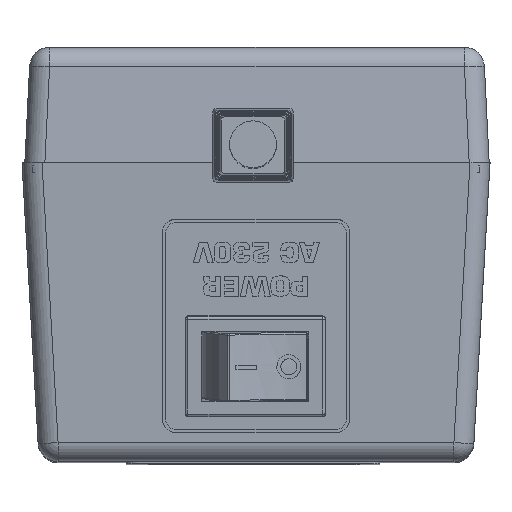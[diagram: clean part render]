
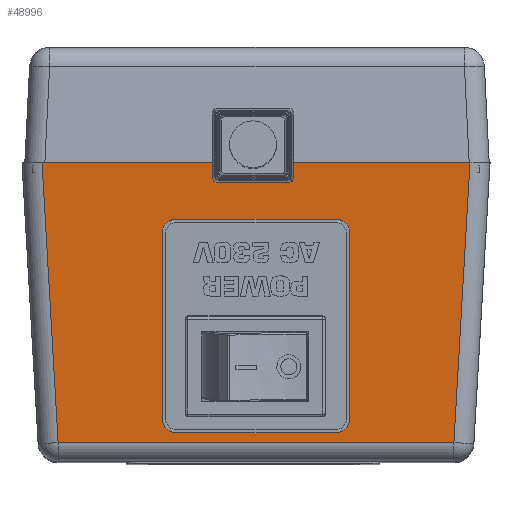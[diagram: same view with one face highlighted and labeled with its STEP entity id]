
A CAD part, top view. The second image highlights one B-rep face of the part: STEP entity #48996.
In plain terms, the highlighted planar face has unit normal (0, -0.056, 0.999).
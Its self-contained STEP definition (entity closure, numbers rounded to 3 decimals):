
#548=CIRCLE('',#51335,2.);
#549=CIRCLE('',#51336,2.);
#550=CIRCLE('',#51337,2.);
#551=CIRCLE('',#51338,2.);
#1466=FACE_BOUND('',#7106,.T.);
#4446=FACE_OUTER_BOUND('',#7105,.T.);
#7105=EDGE_LOOP('',(#39323,#39324,#39325,#39326,#39327,#39328,#39329,#39330,
#39331,#39332));
#7106=EDGE_LOOP('',(#39333,#39334,#39335,#39336,#39337,#39338,#39339,#39340));
#11342=LINE('',#81361,#16525);
#11343=LINE('',#81363,#16526);
#11355=LINE('',#81395,#16538);
#11356=LINE('',#81397,#16539);
#11366=LINE('',#81420,#16549);
#11369=LINE('',#81426,#16552);
#11392=LINE('',#81474,#16575);
#11693=LINE('',#82225,#16876);
#11694=LINE('',#82227,#16877);
#11695=LINE('',#82228,#16878);
#11696=LINE('',#82233,#16879);
#11697=LINE('',#82237,#16880);
#11698=LINE('',#82241,#16881);
#11699=LINE('',#82244,#16882);
#16525=VECTOR('',#58451,10.);
#16526=VECTOR('',#58452,10.);
#16538=VECTOR('',#58474,10.);
#16539=VECTOR('',#58475,10.);
#16549=VECTOR('',#58495,10.);
#16552=VECTOR('',#58500,10.);
#16575=VECTOR('',#58537,10.);
#16876=VECTOR('',#59224,10.);
#16877=VECTOR('',#59225,10.);
#16878=VECTOR('',#59226,10.);
#16879=VECTOR('',#59229,10.);
#16880=VECTOR('',#59232,10.);
#16881=VECTOR('',#59235,10.);
#16882=VECTOR('',#59238,10.);
#21278=VERTEX_POINT('',#81358);
#21279=VERTEX_POINT('',#81360);
#21280=VERTEX_POINT('',#81362);
#21294=VERTEX_POINT('',#81392);
#21295=VERTEX_POINT('',#81394);
#21296=VERTEX_POINT('',#81396);
#21304=VERTEX_POINT('',#81419);
#21306=VERTEX_POINT('',#81425);
#21581=VERTEX_POINT('',#82224);
#21582=VERTEX_POINT('',#82226);
#21583=VERTEX_POINT('',#82229);
#21584=VERTEX_POINT('',#82230);
#21585=VERTEX_POINT('',#82232);
#21586=VERTEX_POINT('',#82234);
#21587=VERTEX_POINT('',#82236);
#21588=VERTEX_POINT('',#82238);
#21589=VERTEX_POINT('',#82240);
#21590=VERTEX_POINT('',#82242);
#27285=EDGE_CURVE('',#21279,#21278,#11342,.T.);
#27286=EDGE_CURVE('',#21280,#21279,#11343,.T.);
#27302=EDGE_CURVE('',#21295,#21294,#11355,.T.);
#27303=EDGE_CURVE('',#21296,#21295,#11356,.T.);
#27315=EDGE_CURVE('',#21294,#21304,#11366,.T.);
#27318=EDGE_CURVE('',#21304,#21306,#11369,.T.);
#27343=EDGE_CURVE('',#21306,#21280,#11392,.T.);
#27724=EDGE_CURVE('',#21581,#21278,#11693,.T.);
#27725=EDGE_CURVE('',#21582,#21581,#11694,.T.);
#27726=EDGE_CURVE('',#21296,#21582,#11695,.T.);
#27727=EDGE_CURVE('',#21583,#21584,#548,.T.);
#27728=EDGE_CURVE('',#21584,#21585,#11696,.T.);
#27729=EDGE_CURVE('',#21585,#21586,#549,.T.);
#27730=EDGE_CURVE('',#21586,#21587,#11697,.T.);
#27731=EDGE_CURVE('',#21587,#21588,#550,.T.);
#27732=EDGE_CURVE('',#21588,#21589,#11698,.T.);
#27733=EDGE_CURVE('',#21589,#21590,#551,.T.);
#27734=EDGE_CURVE('',#21590,#21583,#11699,.T.);
#39323=ORIENTED_EDGE('',*,*,#27315,.T.);
#39324=ORIENTED_EDGE('',*,*,#27318,.T.);
#39325=ORIENTED_EDGE('',*,*,#27343,.T.);
#39326=ORIENTED_EDGE('',*,*,#27286,.T.);
#39327=ORIENTED_EDGE('',*,*,#27285,.T.);
#39328=ORIENTED_EDGE('',*,*,#27724,.F.);
#39329=ORIENTED_EDGE('',*,*,#27725,.F.);
#39330=ORIENTED_EDGE('',*,*,#27726,.F.);
#39331=ORIENTED_EDGE('',*,*,#27303,.T.);
#39332=ORIENTED_EDGE('',*,*,#27302,.T.);
#39333=ORIENTED_EDGE('',*,*,#27727,.T.);
#39334=ORIENTED_EDGE('',*,*,#27728,.T.);
#39335=ORIENTED_EDGE('',*,*,#27729,.T.);
#39336=ORIENTED_EDGE('',*,*,#27730,.T.);
#39337=ORIENTED_EDGE('',*,*,#27731,.T.);
#39338=ORIENTED_EDGE('',*,*,#27732,.T.);
#39339=ORIENTED_EDGE('',*,*,#27733,.T.);
#39340=ORIENTED_EDGE('',*,*,#27734,.T.);
#44252=PLANE('',#51334);
#48996=ADVANCED_FACE('',(#4446,#1466),#44252,.T.);
#51334=AXIS2_PLACEMENT_3D('',#82223,#59222,#59223);
#51335=AXIS2_PLACEMENT_3D('',#82231,#59227,#59228);
#51336=AXIS2_PLACEMENT_3D('',#82235,#59230,#59231);
#51337=AXIS2_PLACEMENT_3D('',#82239,#59233,#59234);
#51338=AXIS2_PLACEMENT_3D('',#82243,#59236,#59237);
#58451=DIRECTION('',(-1.,0.,0.));
#58452=DIRECTION('',(-1.,0.,0.));
#58474=DIRECTION('',(-1.,0.,0.));
#58475=DIRECTION('',(-1.,0.,0.));
#58495=DIRECTION('',(0.,-0.998,-0.056));
#58500=DIRECTION('',(-1.,0.,0.));
#58537=DIRECTION('',(0.,0.998,0.056));
#59222=DIRECTION('center_axis',(0.,-0.056,
0.998));
#59223=DIRECTION('ref_axis',(0.,0.998,0.056));
#59224=DIRECTION('',(-0.057,0.997,0.056));
#59225=DIRECTION('',(-1.,0.,0.));
#59226=DIRECTION('',(-0.057,-0.997,-0.056));
#59227=DIRECTION('center_axis',(0.,0.056,
-0.998));
#59228=DIRECTION('ref_axis',(0.,-0.998,-0.056));
#59229=DIRECTION('',(1.,0.,0.));
#59230=DIRECTION('center_axis',(0.,0.056,
-0.998));
#59231=DIRECTION('ref_axis',(-1.,0.,0.));
#59232=DIRECTION('',(0.,-0.998,-0.056));
#59233=DIRECTION('center_axis',(0.,0.056,
-0.998));
#59234=DIRECTION('ref_axis',(0.,0.998,0.056));
#59235=DIRECTION('',(-1.,0.,0.));
#59236=DIRECTION('center_axis',(0.,0.056,
-0.998));
#59237=DIRECTION('ref_axis',(1.,0.,0.));
#59238=DIRECTION('',(0.,0.998,0.056));
#81358=CARTESIAN_POINT('',(61.102,50.809,-14.408));
#81360=CARTESIAN_POINT('',(86.681,50.809,-14.408));
#81361=CARTESIAN_POINT('',(122.756,50.809,-14.408));
#81362=CARTESIAN_POINT('',(88.181,50.809,-14.408));
#81363=CARTESIAN_POINT('',(122.756,50.809,-14.408));
#81392=CARTESIAN_POINT('',(97.181,50.809,-14.408));
#81394=CARTESIAN_POINT('',(98.681,50.809,-14.408));
#81395=CARTESIAN_POINT('',(122.756,50.809,-14.408));
#81396=CARTESIAN_POINT('',(125.161,50.809,-14.408));
#81397=CARTESIAN_POINT('',(122.756,50.809,-14.408));
#81419=CARTESIAN_POINT('',(97.181,49.384,-14.488));
#81420=CARTESIAN_POINT('',(97.181,27.641,-15.698));
#81425=CARTESIAN_POINT('',(88.181,49.384,-14.488));
#81426=CARTESIAN_POINT('',(105.469,49.384,-14.488));
#81474=CARTESIAN_POINT('',(88.181,31.628,-15.476));
#82223=CARTESIAN_POINT('Origin',(122.756,6.059,-16.9));
#82224=CARTESIAN_POINT('',(63.511,8.892,-16.743));
#82225=CARTESIAN_POINT('',(62.662,23.66,-15.92));
#82226=CARTESIAN_POINT('',(122.752,8.892,-16.743));
#82227=CARTESIAN_POINT('',(122.756,8.892,-16.743));
#82228=CARTESIAN_POINT('',(122.501,4.542,-16.985));
#82229=CARTESIAN_POINT('',(79.131,40.344,-14.991));
#82230=CARTESIAN_POINT('',(81.131,42.341,-14.88));
#82231=CARTESIAN_POINT('Origin',(81.131,40.344,-14.991));
#82232=CARTESIAN_POINT('',(105.131,42.341,-14.88));
#82233=CARTESIAN_POINT('',(101.944,42.341,-14.88));
#82234=CARTESIAN_POINT('',(107.131,40.344,-14.991));
#82235=CARTESIAN_POINT('Origin',(105.131,40.344,-14.991));
#82236=CARTESIAN_POINT('',(107.131,12.387,-16.548));
#82237=CARTESIAN_POINT('',(107.131,23.201,-15.946));
#82238=CARTESIAN_POINT('',(105.131,10.39,-16.659));
#82239=CARTESIAN_POINT('Origin',(105.131,12.387,-16.548));
#82240=CARTESIAN_POINT('',(81.131,10.39,-16.659));
#82241=CARTESIAN_POINT('',(113.944,10.39,-16.659));
#82242=CARTESIAN_POINT('',(79.131,12.387,-16.548));
#82243=CARTESIAN_POINT('Origin',(81.131,12.387,-16.548));
#82244=CARTESIAN_POINT('',(79.131,9.223,-16.724));
